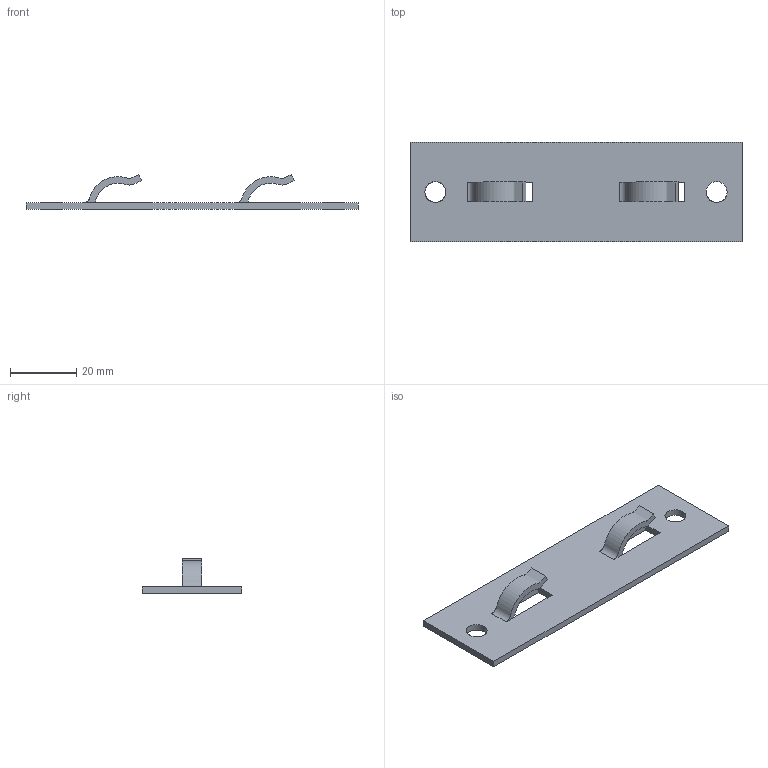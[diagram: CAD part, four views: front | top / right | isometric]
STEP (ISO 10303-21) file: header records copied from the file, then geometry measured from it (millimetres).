
FILE_DESCRIPTION(/* description */ (''),/* implementation_level */ '2;1');
FILE_NAME(/* name */ 'DZM10',/* time_stamp */ '2012-11-29T22:46:59+01:00',/* author */ (''),/* organization */ (''),/* preprocessor_version */ 'ST-DEVELOPER v10',/* originating_system */ '',/* authorisation */ '');
FILE_SCHEMA (('AUTOMOTIVE_DESIGN_CC2'));
Length unit declared in the file: millimetre
Products named in the file (1): 1
Bounding box: 100 x 30 x 10.5 mm (x, y, z)
Surface area: 6838.7 mm2 (no closed solid volume)
Topology: 0 solids, 24 shells, 26 faces, 128 edges, 124 vertices
Faces by surface type: plane 18, bspline 8
Entity records: 1676 total; most frequent: CARTESIAN_POINT 780, ORIENTED_EDGE 132, EDGE_CURVE 128, VERTEX_POINT 124, B_SPLINE_CURVE_WITH_KNOTS 100, EDGE_LOOP 34, ADVANCED_FACE 26, FACE_OUTER_BOUND 26
